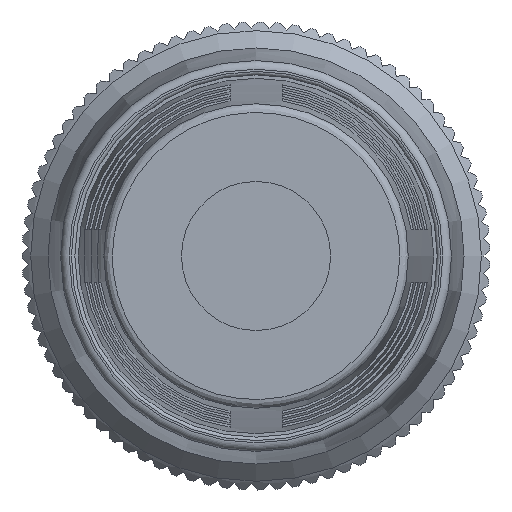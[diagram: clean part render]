
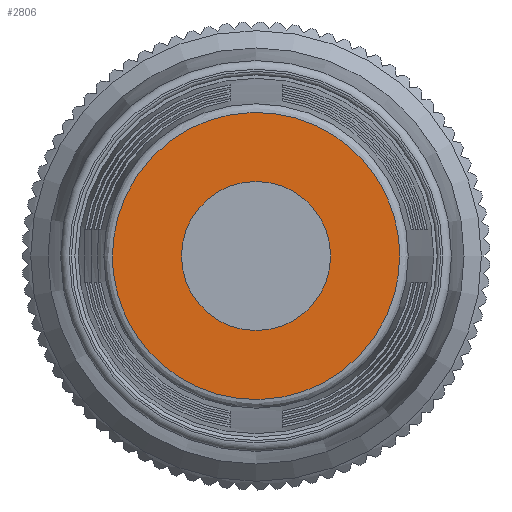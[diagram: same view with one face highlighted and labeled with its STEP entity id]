
A CAD part, front view. The second image highlights one B-rep face of the part: STEP entity #2806.
In plain terms, the highlighted planar face has unit normal (0, -1, 0).
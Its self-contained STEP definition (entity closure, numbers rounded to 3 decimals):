
#1456 = CARTESIAN_POINT ( 'NONE',  ( -21.314, -14.618, -16.563 ) ) ;
#1749 = CARTESIAN_POINT ( 'NONE',  ( -21.314, -14.618, 0. ) ) ;
#2112 = CARTESIAN_POINT ( 'NONE',  ( -17.174, -14.618, 0. ) ) ;
#2556 = EDGE_LOOP ( 'NONE', ( #4015 ) ) ;
#2687 = CARTESIAN_POINT ( 'NONE',  ( -4.751, -14.618, 0. ) ) ;
#2800 =( BOUNDED_CURVE ( )  B_SPLINE_CURVE ( 3, ( #7215, #7896, #8149, #2687, #6245, #1456, #3248 ),
 .UNSPECIFIED., .T., .F. ) 
 B_SPLINE_CURVE_WITH_KNOTS ( ( 4, 3, 4 ),
 ( 0., 0.5, 1. ),
 .UNSPECIFIED. ) 
 CURVE ( )  GEOMETRIC_REPRESENTATION_ITEM ( )  RATIONAL_B_SPLINE_CURVE ( ( 1., 0.333, 0.333, 1., 0.333, 0.333, 1. ) ) 
 REPRESENTATION_ITEM ( '' )  );
#2806 = ADVANCED_FACE ( 'NONE', ( #10959, #9231 ), #4862, .T. ) ;
#2952 = DIRECTION ( 'NONE',  ( 1., 0., 0. ) ) ;
#2985 = EDGE_LOOP ( 'NONE', ( #8674 ) ) ;
#3248 = CARTESIAN_POINT ( 'NONE',  ( -21.314, -14.618, 0. ) ) ;
#3531 = CARTESIAN_POINT ( 'NONE',  ( -8.733, -14.618, 0. ) ) ;
#4008 = DIRECTION ( 'NONE',  ( 0., -1., 0. ) ) ;
#4015 = ORIENTED_EDGE ( 'NONE', *, *, #11404, .F. ) ;
#4605 = EDGE_CURVE ( 'NONE', #9811, #9811, #2800, .T. ) ;
#4862 = PLANE ( 'NONE',  #8155 ) ;
#5438 = CARTESIAN_POINT ( 'NONE',  ( -13.033, -14.618, 0. ) ) ;
#6245 = CARTESIAN_POINT ( 'NONE',  ( -4.751, -14.618, -16.563 ) ) ;
#6764 = VERTEX_POINT ( 'NONE', #3531 ) ;
#7215 = CARTESIAN_POINT ( 'NONE',  ( -21.314, -14.618, 0. ) ) ;
#7896 = CARTESIAN_POINT ( 'NONE',  ( -21.314, -14.618, 16.563 ) ) ;
#8149 = CARTESIAN_POINT ( 'NONE',  ( -4.751, -14.618, 16.563 ) ) ;
#8155 = AXIS2_PLACEMENT_3D ( 'NONE', #2112, #4008, #2952 ) ;
#8251 = DIRECTION ( 'NONE',  ( 1., 0., 0. ) ) ;
#8324 = AXIS2_PLACEMENT_3D ( 'NONE', #5438, #11095, #8251 ) ;
#8674 = ORIENTED_EDGE ( 'NONE', *, *, #4605, .F. ) ;
#9231 = FACE_OUTER_BOUND ( 'NONE', #2985, .T. ) ;
#9388 = CIRCLE ( 'NONE', #8324, 4.3 ) ;
#9811 = VERTEX_POINT ( 'NONE', #1749 ) ;
#10959 = FACE_BOUND ( 'NONE', #2556, .T. ) ;
#11095 = DIRECTION ( 'NONE',  ( 0., -1., 0. ) ) ;
#11404 = EDGE_CURVE ( 'NONE', #6764, #6764, #9388, .T. ) ;
